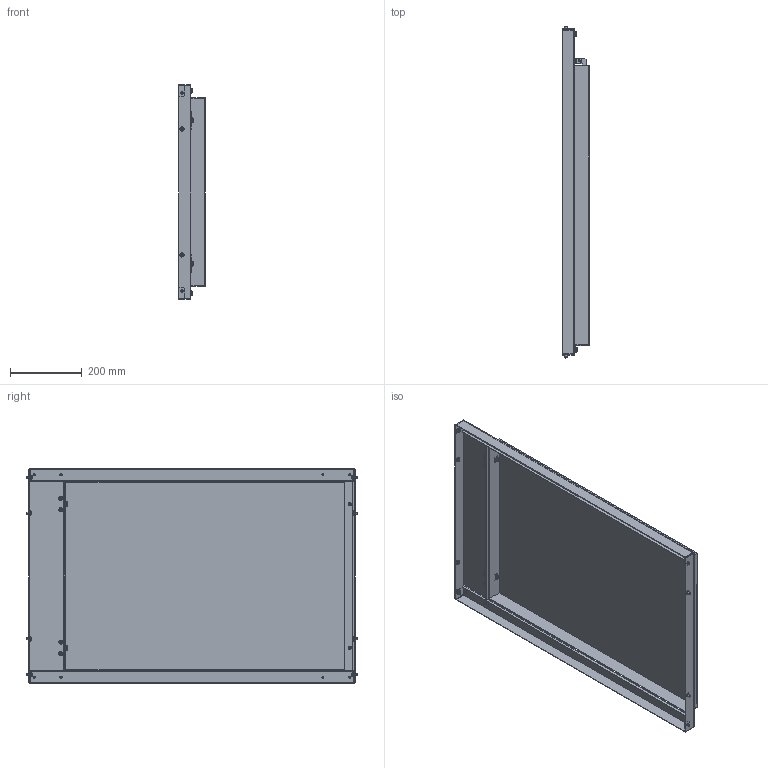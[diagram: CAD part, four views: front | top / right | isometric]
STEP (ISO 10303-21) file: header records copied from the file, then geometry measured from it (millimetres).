
FILE_DESCRIPTION (( 'STEP AP214' ), '1' );
FILE_NAME ('FO-00-MPR-060-100 Ïàíåëü ìîíòàæíàÿ ïîâîðîòíàÿ 600õ1000 ìì.STEP', '2025-08-20T07:35:24', ( '' ), ( '' ), 'SwSTEP 2.0', 'SolidWorks 2023', '' );
FILE_SCHEMA (( 'AUTOMOTIVE_DESIGN' ));
Length unit declared in the file: millimetre
Products named in the file (3): FO-00-MPR-060-100 Панель монтажная поворотная 600х1000 мм; Панель монтажная 600х1000 мм; Панель монтажная поворотная 600х1000 мм
Assembly tree (2 placements, depth 2):
  FO-00-MPR-060-100 Панель монтажная поворотная 600х1000 мм
    Панель монтажная поворотная 600х1000 мм
    Панель монтажная 600х1000 мм
Bounding box: 73 x 922.9 x 596 mm (x, y, z)
Volume: 1495476.4 mm3; surface area: 1562267.3 mm2
Topology: 2 solids, 18 shells, 1020 faces, 2534 edges, 1632 vertices
Faces by surface type: cylinder 534, plane 306, cone 92, torus 88
Entity records: 31254 total; most frequent: DIRECTION 5916, CARTESIAN_POINT 5539, ORIENTED_EDGE 5068, EDGE_CURVE 2534, AXIS2_PLACEMENT_3D 2373, VERTEX_POINT 1632, CIRCLE 1348, LINE 1170
